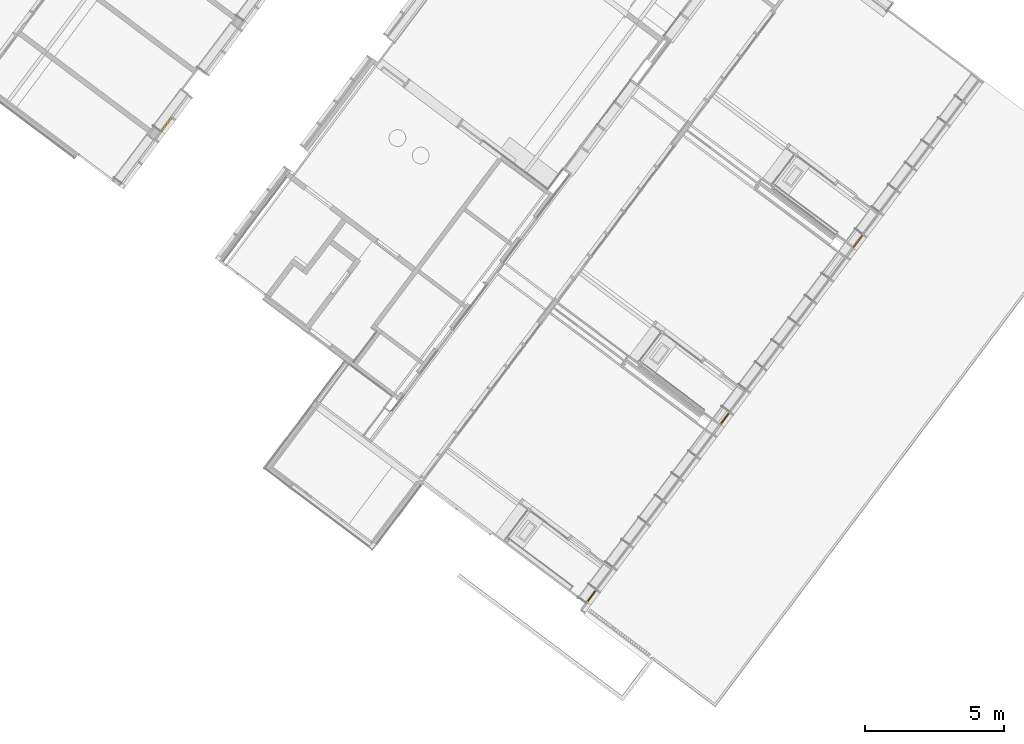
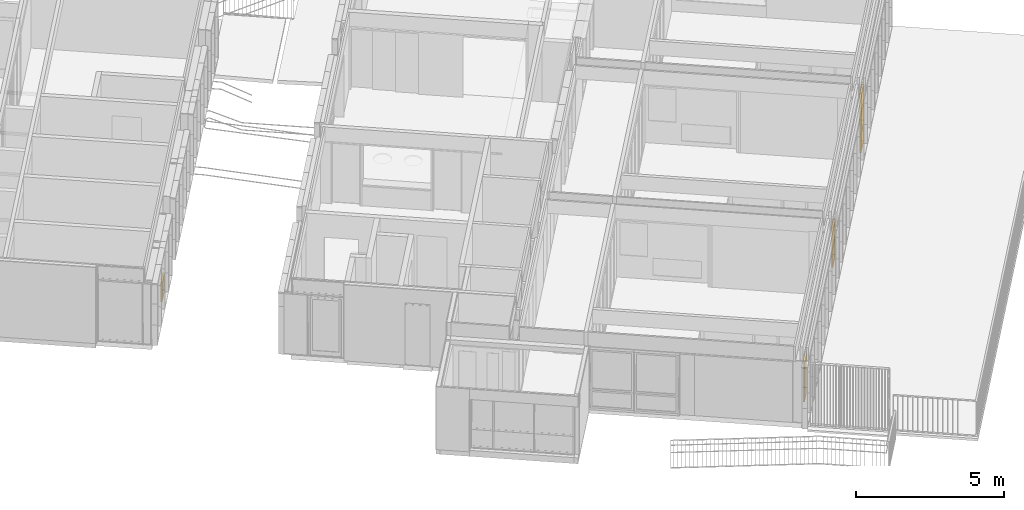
# One storey, part 224 of 243: 5 windows, 2 elements without a shape of their own.
"""IFC2X3 building model written with IfcOpenShell, lengths in metres."""

from ifc_helpers import new_model, entity, si_unit, converted_unit, derived_unit, direction, frame, origin, place, context, subcontext, project, spatial, faceted_brep, source, transform, mapped, material, material_list, type_object, type_shapes, element, aggregate, save


model = new_model("IFC2X3")

# Units and contexts
model_context = context("Model", 3, precision=1e-05, world=origin(), true_north=direction((6.123031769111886e-17, 1.0)))
body_context = subcontext(model_context, "Body", "Model", "MODEL_VIEW")
ifc_project = project(units=[si_unit("LENGTHUNIT", "METRE"), si_unit("AREAUNIT", "SQUARE_METRE"), si_unit("VOLUMEUNIT", "CUBIC_METRE"), converted_unit("PLANEANGLEUNIT", "DEGREE", entity("IfcRatioMeasure", 0.017453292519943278), si_unit("PLANEANGLEUNIT", "RADIAN"), dimensions=[0, 0, 0, 0, 0, 0, 0]), si_unit("MASSUNIT", "GRAM", prefix="KILO"), derived_unit("MASSDENSITYUNIT", [(si_unit("MASSUNIT", "GRAM", prefix="KILO"), 1), (si_unit("LENGTHUNIT", "METRE"), -3)]), derived_unit("IONCONCENTRATIONUNIT", [(si_unit("MASSUNIT", "GRAM", prefix="KILO"), 1), (si_unit("LENGTHUNIT", "METRE"), -3)]), derived_unit("MOMENTOFINERTIAUNIT", [(si_unit("LENGTHUNIT", "METRE"), 4)]), si_unit("TIMEUNIT", "SECOND"), si_unit("FREQUENCYUNIT", "HERTZ"), si_unit("THERMODYNAMICTEMPERATUREUNIT", "DEGREE_CELSIUS"), derived_unit("THERMALTRANSMITTANCEUNIT", [(si_unit("MASSUNIT", "GRAM", prefix="KILO"), 1), (si_unit("THERMODYNAMICTEMPERATUREUNIT", "KELVIN"), -1), (si_unit("TIMEUNIT", "SECOND"), -3)]), derived_unit("THERMALCONDUCTANCEUNIT", [(si_unit("MASSUNIT", "GRAM", prefix="KILO"), 1), (si_unit("THERMODYNAMICTEMPERATUREUNIT", "KELVIN"), -1), (si_unit("TIMEUNIT", "SECOND"), -3), (si_unit("LENGTHUNIT", "METRE"), 1)]), derived_unit("VOLUMETRICFLOWRATEUNIT", [(si_unit("LENGTHUNIT", "METRE"), 3), (si_unit("TIMEUNIT", "SECOND"), -1)]), derived_unit("MASSFLOWRATEUNIT", [(si_unit("MASSUNIT", "GRAM", prefix="KILO"), 1), (si_unit("TIMEUNIT", "SECOND"), -1)]), derived_unit("ROTATIONALFREQUENCYUNIT", [(si_unit("TIMEUNIT", "SECOND"), -1)]), si_unit("ELECTRICCURRENTUNIT", "AMPERE"), si_unit("ELECTRICVOLTAGEUNIT", "VOLT"), si_unit("POWERUNIT", "WATT"), si_unit("FORCEUNIT", "NEWTON", prefix="KILO"), si_unit("ILLUMINANCEUNIT", "LUX"), si_unit("LUMINOUSFLUXUNIT", "LUMEN"), si_unit("LUMINOUSINTENSITYUNIT", "CANDELA"), derived_unit("USERDEFINED", [(si_unit("MASSUNIT", "GRAM", prefix="KILO"), -1), (si_unit("LENGTHUNIT", "METRE"), -2), (si_unit("TIMEUNIT", "SECOND"), 3), (si_unit("LUMINOUSFLUXUNIT", "LUMEN"), 1)]), derived_unit("USERDEFINED", [(si_unit("MASSUNIT", "GRAM", prefix="KILO"), 1), (si_unit("TIMEUNIT", "SECOND"), -3), (si_unit("LENGTHUNIT", "METRE"), 3), (si_unit("ELECTRICCURRENTUNIT", "AMPERE"), -2)]), derived_unit("SOUNDPOWERUNIT", [(si_unit("MASSUNIT", "GRAM", prefix="KILO"), 1), (si_unit("TIMEUNIT", "SECOND"), -3), (si_unit("LENGTHUNIT", "METRE"), 2)]), derived_unit("SOUNDPRESSUREUNIT", [(si_unit("MASSUNIT", "GRAM", prefix="KILO"), 1), (si_unit("LENGTHUNIT", "METRE"), -1), (si_unit("TIMEUNIT", "SECOND"), -2)]), derived_unit("LINEARVELOCITYUNIT", [(si_unit("LENGTHUNIT", "METRE"), 1), (si_unit("TIMEUNIT", "SECOND"), -1)]), si_unit("PRESSUREUNIT", "PASCAL"), derived_unit("USERDEFINED", [(si_unit("MASSUNIT", "GRAM", prefix="KILO"), 1), (si_unit("LENGTHUNIT", "METRE"), -2), (si_unit("TIMEUNIT", "SECOND"), -2)]), derived_unit("LINEARFORCEUNIT", [(si_unit("MASSUNIT", "GRAM", prefix="KILO"), 1), (si_unit("TIMEUNIT", "SECOND"), -2)]), derived_unit("PLANARFORCEUNIT", [(si_unit("MASSUNIT", "GRAM", prefix="KILO"), 1), (si_unit("LENGTHUNIT", "METRE"), -1), (si_unit("TIMEUNIT", "SECOND"), -2)]), derived_unit("SPECIFICHEATCAPACITYUNIT", [(si_unit("THERMODYNAMICTEMPERATUREUNIT", "KELVIN"), -1), (si_unit("LENGTHUNIT", "METRE"), 2), (si_unit("TIMEUNIT", "SECOND"), -2)]), derived_unit("HEATINGVALUEUNIT", [(si_unit("LENGTHUNIT", "METRE"), 2), (si_unit("TIMEUNIT", "SECOND"), -2)]), derived_unit("VAPORPERMEABILITYUNIT", [(si_unit("LENGTHUNIT", "METRE"), -1), (si_unit("TIMEUNIT", "SECOND"), 1)]), derived_unit("DYNAMICVISCOSITYUNIT", [(si_unit("MASSUNIT", "GRAM", prefix="KILO"), 1), (si_unit("TIMEUNIT", "SECOND"), -1), (si_unit("LENGTHUNIT", "METRE"), -1)]), derived_unit("THERMALEXPANSIONCOEFFICIENTUNIT", [(si_unit("THERMODYNAMICTEMPERATUREUNIT", "KELVIN"), -1)]), derived_unit("MODULUSOFELASTICITYUNIT", [(si_unit("MASSUNIT", "GRAM", prefix="KILO"), 1), (si_unit("LENGTHUNIT", "METRE"), -1), (si_unit("TIMEUNIT", "SECOND"), -2)]), derived_unit("ISOTHERMALMOISTURECAPACITYUNIT", [(si_unit("LENGTHUNIT", "METRE"), 3), (si_unit("MASSUNIT", "GRAM", prefix="KILO"), -1)]), derived_unit("MOISTUREDIFFUSIVITYUNIT", [(si_unit("TIMEUNIT", "SECOND"), -1), (si_unit("LENGTHUNIT", "METRE"), 2)])], contexts=[model_context])

# Site, building, storey
site_placement = place(None, frame((0.0, 0.0, 235.0), z_axis=(0.0, 0.0, 1.0), x_axis=(-0.7996477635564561, 0.6004693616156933, 0.0)))
site = spatial("IfcSite", under=ifc_project, at=site_placement, Name="Default", CompositionType="ELEMENT")
building_placement = place(site_placement, origin())
building = spatial("IfcBuilding", under=site, at=building_placement, CompositionType="ELEMENT")
storey_placement = place(building_placement, origin())
storey = spatial("IfcBuildingStorey", under=building, at=storey_placement, Name="P0- Escola", CompositionType="ELEMENT", Elevation=0.0)

# Curtain wall, windows
curtain_wall_type = type_object("IfcCurtainWallType", Name="Muro cortina:MC- EXT- MC2", PredefinedType="NOTDEFINED")
curtain_wall_1_placement = place(storey_placement, origin())
curtain_wall_1 = element("IfcCurtainWall", 1, at=curtain_wall_1_placement, inside=storey, type_object=curtain_wall_type, Name="Muro cortina:MC- EXT- MC2", ObjectType="Muro cortina:MC- EXT- MC2")
ifc_material_1 = material(Name="_Vidre")
ifc_material_2 = material(Name="_Alumini- T1- Perfil")
ifc_material_list = material_list([ifc_material_1, ifc_material_2])
window_style_1 = type_object("IfcWindowStyle", Name="MC- Alu- Conjunt vidre fix- 62x60 cm:MC- Alu- Conjunt vidre fix- 62x60 cm", ConstructionType="NOTDEFINED", OperationType="NOTDEFINED", ParameterTakesPrecedence=False, Sizeable=False, material=ifc_material_list)
shared_shape_1 = source(origin(), body_context, "Body", "Brep", [
    faceted_brep([(0.24476806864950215, -0.007600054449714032, 0.048806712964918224), (0.24476806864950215, -0.03160022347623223, 0.048806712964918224), (-0.24476806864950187, -0.03160022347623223, 0.048806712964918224), (-0.24476806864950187, -0.007600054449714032, 0.048806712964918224), (0.24476806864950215, -0.007600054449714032, 0.7386999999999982), (-0.24476806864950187, -0.007600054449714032, 0.7386999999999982), (-0.24476806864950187, -0.03160022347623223, 0.7386999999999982), (0.24476806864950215, -0.03160022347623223, 0.7386999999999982)], [[[0, 1, 2, 3]], [[4, 0, 3, 5]], [[5, 3, 2, 6]], [[6, 2, 1, 7]], [[7, 1, 0, 4]], [[4, 5, 6, 7]]]),
    faceted_brep([(0.29357478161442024, -0.05999999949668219, 0.7876999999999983), (0.29357478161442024, -0.05999999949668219, 0.0), (0.29357478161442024, 0.0, 0.0), (0.29357478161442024, 0.0, 0.7876999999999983), (-0.29357478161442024, 0.0, 0.7876999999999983), (-0.29357478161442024, 0.0, 0.0), (0.23076796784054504, 0.0, 0.7248931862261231), (-0.23076796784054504, 0.0, 0.724893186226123), (-0.23076796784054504, 0.0, 0.06280681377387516), (0.23076796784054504, 0.0, 0.06280681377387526), (-0.29357478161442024, -0.05999999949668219, 0.0), (-0.29357478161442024, -0.05999999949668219, 0.7876999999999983), (-0.23077081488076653, -0.05999999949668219, 0.7248960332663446), (0.23077081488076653, -0.05999999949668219, 0.7248960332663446), (0.23077081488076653, -0.05999999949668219, 0.0628039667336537), (-0.23077081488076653, -0.05999999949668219, 0.0628039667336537), (0.23077081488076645, -0.03160022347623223, 0.7248960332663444), (0.23077081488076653, -0.03160022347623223, 0.0628039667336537), (-0.23077081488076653, -0.03160022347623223, 0.0628039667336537), (-0.23077081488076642, -0.03160022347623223, 0.7248960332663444), (-0.24476806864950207, -0.03160022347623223, 0.7388932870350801), (0.24476806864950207, -0.03160022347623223, 0.7388932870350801), (0.24476806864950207, -0.03160022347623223, 0.048806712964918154), (-0.24476806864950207, -0.03160022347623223, 0.04880671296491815), (0.24476806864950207, -0.007600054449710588, 0.7388932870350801), (0.24476806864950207, -0.007600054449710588, 0.04880671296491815), (-0.24476806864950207, -0.007600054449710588, 0.048806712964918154), (-0.24476806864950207, -0.007600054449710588, 0.7388932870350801), (-0.2307679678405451, -0.007600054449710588, 0.7248931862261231), (0.2307679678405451, -0.007600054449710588, 0.7248931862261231), (0.2307679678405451, -0.007600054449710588, 0.06280681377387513), (-0.2307679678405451, -0.007600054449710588, 0.06280681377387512)], [[[0, 1, 2, 3]], [[4, 3, 2, 5], [6, 7, 8, 9]], [[1, 10, 5, 2]], [[0, 11, 10, 1], [12, 13, 14, 15]], [[16, 17, 14, 13]], [[17, 18, 15, 14]], [[16, 19, 18, 17], [20, 21, 22, 23]], [[24, 25, 22, 21]], [[25, 26, 23, 22]], [[24, 27, 26, 25], [28, 29, 30, 31]], [[6, 9, 30, 29]], [[9, 8, 31, 30]], [[10, 11, 4, 5]], [[18, 19, 12, 15]], [[26, 27, 20, 23]], [[8, 7, 28, 31]], [[11, 0, 3, 4]], [[19, 16, 13, 12]], [[27, 24, 21, 20]], [[7, 6, 29, 28]]], outer=[[True], [True, False], [True], [True, False], [True], [True], [False, True], [True], [True], [True, False], [True], [True], [True], [True], [True], [True], [True], [True], [True], [True]]),
])
type_shapes(window_style_1, [shared_shape_1])
window_1_placement = place(curtain_wall_1_placement, frame((5.885147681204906, -34.681616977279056, 0.03229999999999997), z_axis=(0.0, 0.0, 1.0), x_axis=(0.0, 1.0, 0.0)))
window_1 = element("IfcWindow", 2, at=window_1_placement, type_object=window_style_1, material=ifc_material_list, Name="MC- Alu- Conjunt vidre fix- 62x60 cm:MC- Alu- Conjunt vidre fix- 62x60 cm", ObjectType="MC- Alu- Conjunt vidre fix- 62x60 cm:MC- Alu- Conjunt vidre fix- 62x60 cm", OverallHeight=0.7876999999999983, OverallWidth=0.5871495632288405, context=body_context, shape_type="MappedRepresentation", body=[
    mapped(shared_shape_1, transform((0.0, 0.0, 0.0), scale=1.0)),
])
window_style_2 = type_object("IfcWindowStyle", Name="MC- Alu- Conjunt vidre fix- 62x60 cm:MC- Alu- Conjunt vidre fix- 62x60 cm", ConstructionType="NOTDEFINED", OperationType="NOTDEFINED", ParameterTakesPrecedence=False, Sizeable=False, material=ifc_material_list)
shared_shape_2 = source(origin(), body_context, "Body", "Brep", [
    faceted_brep([(0.2253605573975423, -0.007600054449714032, 0.048806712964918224), (0.2253605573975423, -0.03160022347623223, 0.048806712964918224), (-0.22536055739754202, -0.03160022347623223, 0.048806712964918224), (-0.22536055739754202, -0.007600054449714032, 0.048806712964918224), (0.2253605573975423, -0.007600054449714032, 1.614750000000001), (-0.22536055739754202, -0.007600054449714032, 1.614750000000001), (-0.22536055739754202, -0.03160022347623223, 1.614750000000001), (0.2253605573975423, -0.03160022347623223, 1.614750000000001)], [[[0, 1, 2, 3]], [[4, 0, 3, 5]], [[5, 3, 2, 6]], [[6, 2, 1, 7]], [[7, 1, 0, 4]], [[4, 5, 6, 7]]]),
    faceted_brep([(0.2741672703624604, -0.05999999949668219, 1.6637500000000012), (0.27416727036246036, -0.05999999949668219, 0.0), (0.27416727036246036, 0.0, 0.0), (0.27416727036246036, 0.0, 1.6637500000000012), (-0.27416727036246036, 0.0, 1.6637500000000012), (-0.27416727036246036, 0.0, 0.0), (0.21136045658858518, 0.0, 1.6009431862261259), (-0.2113604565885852, 0.0, 1.6009431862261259), (-0.21136045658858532, 0.0, 0.06280681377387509), (0.21136045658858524, 0.0, 0.06280681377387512), (-0.27416727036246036, -0.05999999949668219, 0.0), (-0.2741672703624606, -0.05999999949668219, 1.6637500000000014), (-0.2113633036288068, -0.05999999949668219, 1.6009460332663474), (0.21136330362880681, -0.05999999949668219, 1.6009460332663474), (0.21136330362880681, -0.05999999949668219, 0.06280396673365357), (-0.21136330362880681, -0.05999999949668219, 0.06280396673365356), (0.21136330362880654, -0.03160022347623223, 1.6009460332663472), (0.21136330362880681, -0.03160022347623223, 0.06280396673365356), (-0.21136330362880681, -0.03160022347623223, 0.0628039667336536), (-0.21136330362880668, -0.03160022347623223, 1.6009460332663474), (-0.22536055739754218, -0.03160022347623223, 1.6149432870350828), (0.2253605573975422, -0.03160022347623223, 1.6149432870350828), (0.2253605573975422, -0.03160022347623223, 0.048806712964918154), (-0.2253605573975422, -0.03160022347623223, 0.04880671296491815), (0.2253605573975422, -0.007600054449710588, 1.6149432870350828), (0.2253605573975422, -0.007600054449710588, 0.04880671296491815), (-0.2253605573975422, -0.007600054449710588, 0.048806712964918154), (-0.22536055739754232, -0.007600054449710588, 1.6149432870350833), (-0.2113604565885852, -0.007600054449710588, 1.6009431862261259), (0.2113604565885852, -0.007600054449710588, 1.6009431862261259), (0.21136045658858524, -0.007600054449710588, 0.06280681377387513), (-0.21136045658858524, -0.007600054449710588, 0.06280681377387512)], [[[0, 1, 2, 3]], [[4, 3, 2, 5], [6, 7, 8, 9]], [[1, 10, 5, 2]], [[0, 11, 10, 1], [12, 13, 14, 15]], [[16, 17, 14, 13]], [[17, 18, 15, 14]], [[16, 19, 18, 17], [20, 21, 22, 23]], [[24, 25, 22, 21]], [[25, 26, 23, 22]], [[24, 27, 26, 25], [28, 29, 30, 31]], [[6, 9, 30, 29]], [[9, 8, 31, 30]], [[10, 11, 4, 5]], [[18, 19, 12, 15]], [[26, 27, 20, 23]], [[8, 7, 28, 31]], [[11, 0, 3, 4]], [[19, 16, 13, 12]], [[27, 24, 21, 20]], [[7, 6, 29, 28]]], outer=[[True], [True, False], [True], [True, False], [True], [True], [False, True], [True], [True], [True, False], [True], [True], [True], [True], [True], [True], [True], [True], [True], [True]]),
])
type_shapes(window_style_2, [shared_shape_2])
window_2_placement = place(curtain_wall_1_placement, frame((5.885147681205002, -18.701024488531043, 0.8199999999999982), z_axis=(0.0, 0.0, 1.0), x_axis=(0.0, 1.0, 0.0)))
window_2 = element("IfcWindow", 3, at=window_2_placement, type_object=window_style_2, material=ifc_material_list, Name="MC- Alu- Conjunt vidre fix- 62x60 cm:MC- Alu- Conjunt vidre fix- 62x60 cm", ObjectType="MC- Alu- Conjunt vidre fix- 62x60 cm:MC- Alu- Conjunt vidre fix- 62x60 cm", OverallHeight=1.6637500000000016, OverallWidth=0.5483345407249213, context=body_context, shape_type="MappedRepresentation", body=[
    mapped(shared_shape_2, transform((0.0, 0.0, 0.0), scale=1.0)),
])
window_style_3 = type_object("IfcWindowStyle", Name="MC- Alu- Conjunt vidre fix- 62x60 cm:MC- Alu- Conjunt vidre fix- 62x60 cm", ConstructionType="NOTDEFINED", OperationType="NOTDEFINED", ParameterTakesPrecedence=False, Sizeable=False, material=ifc_material_list)
shared_shape_3 = source(origin(), body_context, "Body", "Brep", [
    faceted_brep([(0.21869328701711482, -0.007600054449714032, 0.048806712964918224), (0.21869328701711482, -0.03160022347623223, 0.048806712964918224), (-0.21869328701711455, -0.03160022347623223, 0.048806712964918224), (-0.21869328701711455, -0.007600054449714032, 0.048806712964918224), (0.21869328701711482, -0.007600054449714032, 1.6147500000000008), (-0.21869328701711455, -0.007600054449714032, 1.6147500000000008), (-0.21869328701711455, -0.03160022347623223, 1.6147500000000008), (0.21869328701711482, -0.03160022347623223, 1.6147500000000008)], [[[0, 1, 2, 3]], [[4, 0, 3, 5]], [[5, 3, 2, 6]], [[6, 2, 1, 7]], [[7, 1, 0, 4]], [[4, 5, 6, 7]]]),
    faceted_brep([(0.2674999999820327, -0.05999999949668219, 1.6637500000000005), (0.2674999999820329, -0.05999999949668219, 0.0), (0.2674999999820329, 0.0, 0.0), (0.2674999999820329, 0.0, 1.6637500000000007), (-0.2674999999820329, 0.0, 1.6637500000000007), (-0.2674999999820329, 0.0, 0.0), (0.2046931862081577, 0.0, 1.6009431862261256), (-0.20469318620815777, 0.0, 1.6009431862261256), (-0.20469318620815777, 0.0, 0.06280681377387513), (0.20469318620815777, 0.0, 0.06280681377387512), (-0.2674999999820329, -0.05999999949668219, 0.0), (-0.2674999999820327, -0.05999999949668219, 1.6637500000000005), (-0.2046960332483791, -0.05999999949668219, 1.600946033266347), (0.20469603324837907, -0.05999999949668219, 1.600946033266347), (0.20469603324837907, -0.05999999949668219, 0.06280396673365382), (-0.20469603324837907, -0.05999999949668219, 0.06280396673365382), (0.20469603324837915, -0.03160022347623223, 1.600946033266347), (0.20469603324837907, -0.03160022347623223, 0.06280396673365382), (-0.20469603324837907, -0.03160022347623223, 0.0628039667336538), (-0.2046960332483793, -0.03160022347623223, 1.6009460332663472), (-0.2186932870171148, -0.03160022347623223, 1.6149432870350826), (0.21869328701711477, -0.03160022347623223, 1.6149432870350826), (0.21869328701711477, -0.03160022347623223, 0.048806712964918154), (-0.21869328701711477, -0.03160022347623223, 0.04880671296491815), (0.21869328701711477, -0.007600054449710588, 1.6149432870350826), (0.21869328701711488, -0.007600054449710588, 0.04880671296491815), (-0.21869328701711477, -0.007600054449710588, 0.048806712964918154), (-0.21869328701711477, -0.007600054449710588, 1.6149432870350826), (-0.20469318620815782, -0.007600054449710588, 1.6009431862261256), (0.20469318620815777, -0.007600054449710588, 1.6009431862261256), (0.20469318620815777, -0.007600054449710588, 0.06280681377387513), (-0.20469318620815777, -0.007600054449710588, 0.06280681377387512)], [[[0, 1, 2, 3]], [[4, 3, 2, 5], [6, 7, 8, 9]], [[1, 10, 5, 2]], [[0, 11, 10, 1], [12, 13, 14, 15]], [[16, 17, 14, 13]], [[17, 18, 15, 14]], [[16, 19, 18, 17], [20, 21, 22, 23]], [[24, 25, 22, 21]], [[25, 26, 23, 22]], [[24, 27, 26, 25], [28, 29, 30, 31]], [[6, 9, 30, 29]], [[9, 8, 31, 30]], [[10, 11, 4, 5]], [[18, 19, 12, 15]], [[26, 27, 20, 23]], [[8, 7, 28, 31]], [[11, 0, 3, 4]], [[19, 16, 13, 12]], [[27, 24, 21, 20]], [[7, 6, 29, 28]]], outer=[[True], [True, False], [True], [True, False], [True], [True], [False, True], [True], [True], [True, False], [True], [True], [True], [True], [True], [True], [True], [True], [True], [True]]),
])
type_shapes(window_style_3, [shared_shape_3])
window_3_placement = place(curtain_wall_1_placement, frame((5.885147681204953, -26.70769175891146, 0.8199999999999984), z_axis=(0.0, 0.0, 1.0), x_axis=(0.0, 1.0, 0.0)))
window_3 = element("IfcWindow", 4, at=window_3_placement, type_object=window_style_3, material=ifc_material_list, Name="MC- Alu- Conjunt vidre fix- 62x60 cm:MC- Alu- Conjunt vidre fix- 62x60 cm", ObjectType="MC- Alu- Conjunt vidre fix- 62x60 cm:MC- Alu- Conjunt vidre fix- 62x60 cm", OverallHeight=1.6637500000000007, OverallWidth=0.5349999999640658, context=body_context, shape_type="MappedRepresentation", body=[
    mapped(shared_shape_3, transform((0.0, 0.0, 0.0), scale=1.0)),
])
window_style_4 = type_object("IfcWindowStyle", Name="MC- Alu- Conjunt vidre fix- 62x60 cm:MC- Alu- Conjunt vidre fix- 62x60 cm", ConstructionType="NOTDEFINED", OperationType="NOTDEFINED", ParameterTakesPrecedence=False, Sizeable=False, material=ifc_material_list)
shared_shape_4 = source(origin(), body_context, "Body", "Brep", [
    faceted_brep([(0.24476806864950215, -0.007600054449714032, 0.048806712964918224), (0.24476806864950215, -0.03160022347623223, 0.048806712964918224), (-0.24476806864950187, -0.03160022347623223, 0.048806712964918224), (-0.24476806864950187, -0.007600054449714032, 0.048806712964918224), (0.24476806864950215, -0.007600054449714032, 1.614750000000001), (-0.24476806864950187, -0.007600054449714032, 1.614750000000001), (-0.24476806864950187, -0.03160022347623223, 1.614750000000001), (0.24476806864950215, -0.03160022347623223, 1.614750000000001)], [[[0, 1, 2, 3]], [[4, 0, 3, 5]], [[5, 3, 2, 6]], [[6, 2, 1, 7]], [[7, 1, 0, 4]], [[4, 5, 6, 7]]]),
    faceted_brep([(0.2935747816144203, -0.05999999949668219, 1.6637500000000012), (0.29357478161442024, -0.05999999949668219, 0.0), (0.29357478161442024, 0.0, 0.0), (0.29357478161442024, 0.0, 1.6637500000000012), (-0.29357478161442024, 0.0, 1.6637500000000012), (-0.29357478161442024, 0.0, 0.0), (0.23076796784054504, 0.0, 1.6009431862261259), (-0.23076796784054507, 0.0, 1.6009431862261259), (-0.23076796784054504, 0.0, 0.06280681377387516), (0.2307679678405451, 0.0, 0.06280681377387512), (-0.29357478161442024, -0.05999999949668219, 0.0), (-0.2935747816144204, -0.05999999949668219, 1.6637500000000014), (-0.23077081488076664, -0.05999999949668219, 1.6009460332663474), (0.23077081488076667, -0.05999999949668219, 1.6009460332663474), (0.23077081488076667, -0.05999999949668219, 0.06280396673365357), (-0.23077081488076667, -0.05999999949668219, 0.06280396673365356), (0.2307708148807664, -0.03160022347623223, 1.6009460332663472), (0.23077081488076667, -0.03160022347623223, 0.06280396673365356), (-0.23077081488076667, -0.03160022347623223, 0.0628039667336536), (-0.23077081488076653, -0.03160022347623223, 1.6009460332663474), (-0.24476806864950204, -0.03160022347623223, 1.6149432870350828), (0.24476806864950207, -0.03160022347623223, 1.6149432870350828), (0.24476806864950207, -0.03160022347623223, 0.048806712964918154), (-0.24476806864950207, -0.03160022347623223, 0.04880671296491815), (0.24476806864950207, -0.007600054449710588, 1.6149432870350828), (0.24476806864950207, -0.007600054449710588, 0.04880671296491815), (-0.24476806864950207, -0.007600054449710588, 0.048806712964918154), (-0.24476806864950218, -0.007600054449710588, 1.6149432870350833), (-0.23076796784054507, -0.007600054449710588, 1.6009431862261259), (0.23076796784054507, -0.007600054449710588, 1.6009431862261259), (0.2307679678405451, -0.007600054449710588, 0.06280681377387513), (-0.2307679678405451, -0.007600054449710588, 0.06280681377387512)], [[[0, 1, 2, 3]], [[4, 3, 2, 5], [6, 7, 8, 9]], [[1, 10, 5, 2]], [[0, 11, 10, 1], [12, 13, 14, 15]], [[16, 17, 14, 13]], [[17, 18, 15, 14]], [[16, 19, 18, 17], [20, 21, 22, 23]], [[24, 25, 22, 21]], [[25, 26, 23, 22]], [[24, 27, 26, 25], [28, 29, 30, 31]], [[6, 9, 30, 29]], [[9, 8, 31, 30]], [[10, 11, 4, 5]], [[18, 19, 12, 15]], [[26, 27, 20, 23]], [[8, 7, 28, 31]], [[11, 0, 3, 4]], [[19, 16, 13, 12]], [[27, 24, 21, 20]], [[7, 6, 29, 28]]], outer=[[True], [True, False], [True], [True, False], [True], [True], [False, True], [True], [True], [True, False], [True], [True], [True], [True], [True], [True], [True], [True], [True], [True]]),
])
type_shapes(window_style_4, [shared_shape_4])
window_4_placement = place(curtain_wall_1_placement, frame((5.885147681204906, -34.681616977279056, 0.8199999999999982), z_axis=(0.0, 0.0, 1.0), x_axis=(0.0, 1.0, 0.0)))
window_4 = element("IfcWindow", 5, at=window_4_placement, type_object=window_style_4, material=ifc_material_list, Name="MC- Alu- Conjunt vidre fix- 62x60 cm:MC- Alu- Conjunt vidre fix- 62x60 cm", ObjectType="MC- Alu- Conjunt vidre fix- 62x60 cm:MC- Alu- Conjunt vidre fix- 62x60 cm", OverallHeight=1.6637500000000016, OverallWidth=0.587149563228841, context=body_context, shape_type="MappedRepresentation", body=[
    mapped(shared_shape_4, transform((0.0, 0.0, 0.0), scale=1.0)),
])
aggregate(curtain_wall_1, [window_1, window_2, window_3, window_4])

# Curtain wall, window
curtain_wall_2_placement = place(storey_placement, origin())
curtain_wall_2 = element("IfcCurtainWall", 6, at=curtain_wall_2_placement, inside=storey, type_object=curtain_wall_type, Name="Muro cortina:MC- EXT- MC2", ObjectType="Muro cortina:MC- EXT- MC2")
window_style_5 = type_object("IfcWindowStyle", Name="MC- Alu- Conjunt vidre fix- 62x60 cm:MC- Alu- Conjunt vidre fix- 62x60 cm", ConstructionType="NOTDEFINED", OperationType="NOTDEFINED", ParameterTakesPrecedence=False, Sizeable=False, material=ifc_material_list)
shared_shape_5 = source(origin(), body_context, "Body", "Brep", [
    faceted_brep([(0.2609272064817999, -0.007600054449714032, 0.048806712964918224), (0.2609272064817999, -0.03160022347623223, 0.048806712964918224), (-0.2609272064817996, -0.03160022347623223, 0.048806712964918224), (-0.2609272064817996, -0.007600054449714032, 0.048806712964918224), (0.2609272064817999, -0.007600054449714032, 0.7387000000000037), (-0.2609272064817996, -0.007600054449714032, 0.7387000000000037), (-0.2609272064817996, -0.03160022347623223, 0.7387000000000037), (0.2609272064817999, -0.03160022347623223, 0.7387000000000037)], [[[0, 1, 2, 3]], [[4, 0, 3, 5]], [[5, 3, 2, 6]], [[6, 2, 1, 7]], [[7, 1, 0, 4]], [[4, 5, 6, 7]]]),
    faceted_brep([(0.30973391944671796, -0.05999999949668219, 0.7877000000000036), (0.30973391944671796, -0.05999999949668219, 0.0), (0.30973391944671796, 0.0, 0.0), (0.30973391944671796, 0.0, 0.7877000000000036), (-0.30973391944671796, 0.0, 0.7877000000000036), (-0.30973391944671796, 0.0, 0.0), (0.2469271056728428, 0.0, 0.7248931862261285), (-0.24692710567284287, 0.0, 0.7248931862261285), (-0.24692710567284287, 0.0, 0.06280681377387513), (0.24692710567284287, 0.0, 0.06280681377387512), (-0.30973391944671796, -0.05999999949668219, 0.0), (-0.30973391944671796, -0.05999999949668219, 0.7877000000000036), (-0.24692995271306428, -0.05999999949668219, 0.72489603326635), (0.24692995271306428, -0.05999999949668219, 0.72489603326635), (0.24692995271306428, -0.05999999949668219, 0.0628039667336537), (-0.24692995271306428, -0.05999999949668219, 0.0628039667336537), (0.24692995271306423, -0.03160022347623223, 0.7248960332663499), (0.24692995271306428, -0.03160022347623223, 0.0628039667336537), (-0.24692995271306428, -0.03160022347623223, 0.0628039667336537), (-0.2469299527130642, -0.03160022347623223, 0.7248960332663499), (-0.26092720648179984, -0.03160022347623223, 0.7388932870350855), (0.26092720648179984, -0.03160022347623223, 0.7388932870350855), (0.26092720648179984, -0.03160022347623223, 0.048806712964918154), (-0.26092720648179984, -0.03160022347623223, 0.04880671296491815), (0.26092720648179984, -0.007600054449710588, 0.7388932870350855), (0.26092720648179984, -0.007600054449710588, 0.04880671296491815), (-0.26092720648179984, -0.007600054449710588, 0.04880671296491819), (-0.26092720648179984, -0.007600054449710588, 0.7388932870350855), (-0.24692710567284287, -0.007600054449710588, 0.7248931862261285), (0.24692710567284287, -0.007600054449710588, 0.7248931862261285), (0.24692710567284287, -0.007600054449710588, 0.06280681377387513), (-0.24692710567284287, -0.007600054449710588, 0.06280681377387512)], [[[0, 1, 2, 3]], [[4, 3, 2, 5], [6, 7, 8, 9]], [[1, 10, 5, 2]], [[0, 11, 10, 1], [12, 13, 14, 15]], [[16, 17, 14, 13]], [[17, 18, 15, 14]], [[16, 19, 18, 17], [20, 21, 22, 23]], [[24, 25, 22, 21]], [[25, 26, 23, 22]], [[24, 27, 26, 25], [28, 29, 30, 31]], [[6, 9, 30, 29]], [[9, 8, 31, 30]], [[10, 11, 4, 5]], [[18, 19, 12, 15]], [[26, 27, 20, 23]], [[8, 7, 28, 31]], [[11, 0, 3, 4]], [[19, 16, 13, 12]], [[27, 24, 21, 20]], [[7, 6, 29, 28]]], outer=[[True], [True, False], [True], [True, False], [True], [True], [False, True], [True], [True], [True, False], [True], [True], [True], [True], [True], [True], [True], [True], [True], [True]]),
])
type_shapes(window_style_5, [shared_shape_5])
window_5_placement = place(curtain_wall_2_placement, frame((28.34514768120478, -23.09045783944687, 0.03229999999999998), z_axis=(0.0, 0.0, 1.0), x_axis=(0.0, 1.0, 0.0)))
window_5 = element("IfcWindow", 7, at=window_5_placement, type_object=window_style_5, material=ifc_material_list, Name="MC- Alu- Conjunt vidre fix- 62x60 cm:MC- Alu- Conjunt vidre fix- 62x60 cm", ObjectType="MC- Alu- Conjunt vidre fix- 62x60 cm:MC- Alu- Conjunt vidre fix- 62x60 cm", OverallHeight=0.7877000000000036, OverallWidth=0.6194678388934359, context=body_context, shape_type="MappedRepresentation", body=[
    mapped(shared_shape_5, transform((0.0, 0.0, 0.0), scale=1.0)),
])
aggregate(curtain_wall_2, [window_5])

save(model, "model.ifc")
